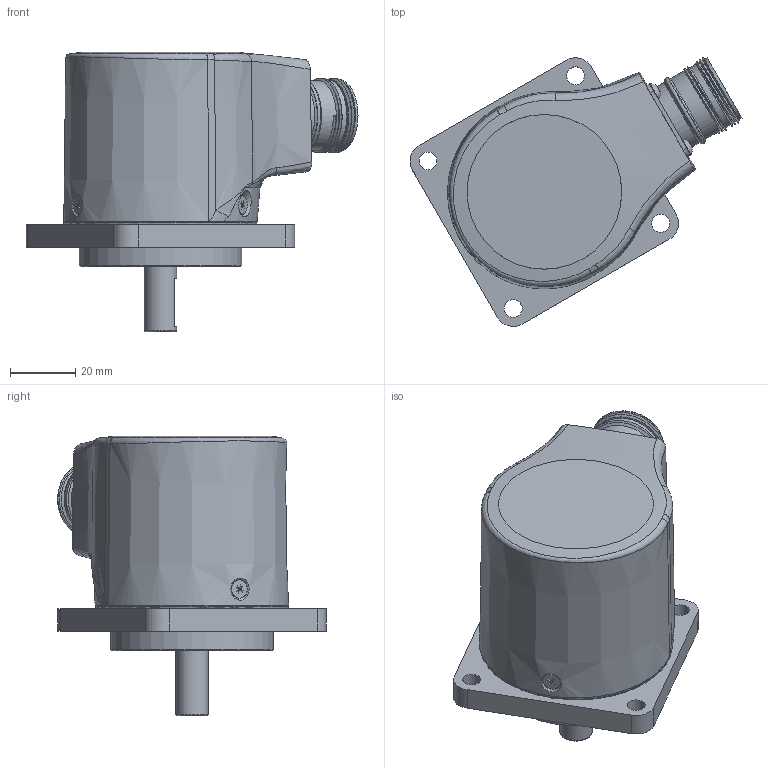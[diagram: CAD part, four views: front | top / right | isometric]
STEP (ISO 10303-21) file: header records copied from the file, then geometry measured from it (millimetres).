
FILE_DESCRIPTION(/* description */ ('Unknown'),/* implementation_level */ '2;1');
FILE_NAME(/* name */ 'EAR_EAMR_63_E_HAR',/* time_stamp */ '2018-04-19T15:29:51+02:00',/* author */ ('Unknown'),/* organization */ ('Unknown'),/* preprocessor_version */ 'ST-DEVELOPER v16.7',/* originating_system */ 'DEX',/* authorisation */ $);
FILE_SCHEMA (('AUTOMOTIVE_DESIGN {1 0 10303 214 3 1 1}'));
Length unit declared in the file: millimetre
Products named in the file (1): tmpEAR_EAMR_63_E_HAR
Bounding box: 102.14 x 82.71 x 86 mm (x, y, z)
Volume: 104605.3 mm3; surface area: 50280 mm2
Topology: 2 solids, 21 shells, 499 faces, 1229 edges, 807 vertices
Faces by surface type: plane 240, cylinder 138, cone 66, torus 22, bspline 21, sphere 12
Full cylindrical faces by diameter (mm): 1 x12, 1.15 x12, 1.65 x12, 2.013 x7, 2.459 x10, 3 x10, 3.1 x4, 3.4 x3, 5.5 x4, 5.6 x3, 6 x4, 8 x6, 10 x1, 10.4 x1, 18.5 x1, 19.25 x1, 20 x1, 21.5 x6, 22 x3, 22.1 x2, 22.667 x1, 22.691 x1, 29 x2, 50 x1, 51.2 x1, 54 x3, 56 x1, 59.5 x1
Entity records: 19502 total; most frequent: CARTESIAN_POINT 6170, DIRECTION 2009, ORIENTED_EDGE 1716, EDGE_CURVE 858, AXIS2_PLACEMENT_3D 851, FACE_BOUND 798, EDGE_LOOP 780, VERTEX_POINT 676
